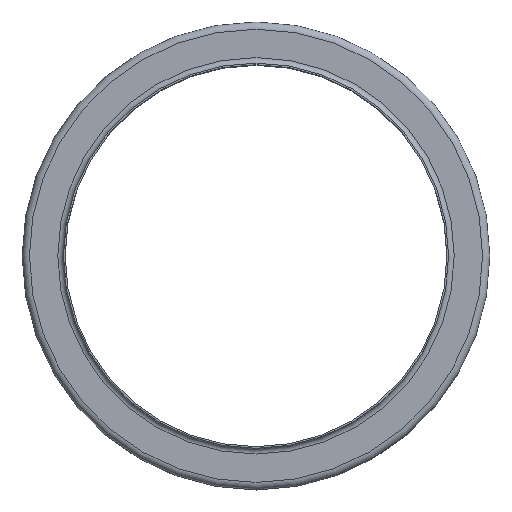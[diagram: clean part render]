
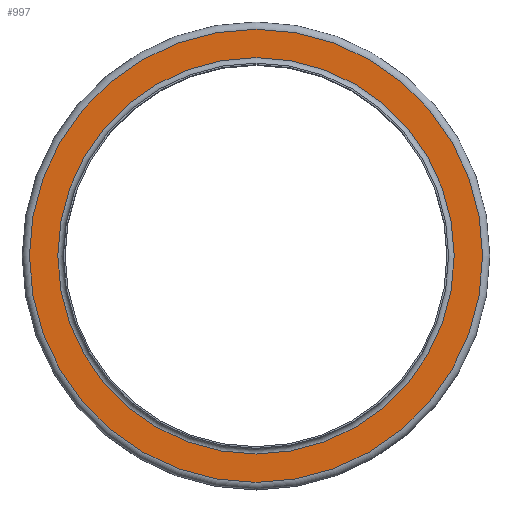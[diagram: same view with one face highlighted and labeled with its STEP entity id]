
A CAD part, top view. The second image highlights one B-rep face of the part: STEP entity #997.
In plain terms, the highlighted planar face has unit normal (0, 0, 1).
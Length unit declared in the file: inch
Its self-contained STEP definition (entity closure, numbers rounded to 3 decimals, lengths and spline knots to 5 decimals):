
#95=FACE_BOUND('',#269,.T.);
#162=FACE_OUTER_BOUND('',#268,.T.);
#268=EDGE_LOOP('',(#769));
#269=EDGE_LOOP('',(#770));
#382=CIRCLE('',#1186,2.88725);
#383=CIRCLE('',#1188,3.30075);
#463=VERTEX_POINT('',#1810);
#464=VERTEX_POINT('',#1814);
#568=EDGE_CURVE('',#463,#463,#382,.T.);
#569=EDGE_CURVE('',#464,#464,#383,.T.);
#769=ORIENTED_EDGE('',*,*,#569,.F.);
#770=ORIENTED_EDGE('',*,*,#568,.T.);
#851=PLANE('',#1187);
#997=ADVANCED_FACE('',(#162,#95),#851,.T.);
#1186=AXIS2_PLACEMENT_3D('',#1812,#1522,#1523);
#1187=AXIS2_PLACEMENT_3D('',#1813,#1524,#1525);
#1188=AXIS2_PLACEMENT_3D('',#1815,#1526,#1527);
#1522=DIRECTION('center_axis',(0.,0.,-1.));
#1523=DIRECTION('ref_axis',(1.,0.,0.));
#1524=DIRECTION('center_axis',(0.,0.,1.));
#1525=DIRECTION('ref_axis',(1.,0.,0.));
#1526=DIRECTION('center_axis',(0.,0.,-1.));
#1527=DIRECTION('ref_axis',(1.,0.,0.));
#1810=CARTESIAN_POINT('',(2.88725,0.,-0.08175));
#1812=CARTESIAN_POINT('Origin',(0.,0.,-0.08175));
#1813=CARTESIAN_POINT('Origin',(0.,3.30075,-0.08175));
#1814=CARTESIAN_POINT('',(3.30075,0.,-0.08175));
#1815=CARTESIAN_POINT('Origin',(0.,0.,-0.08175));
